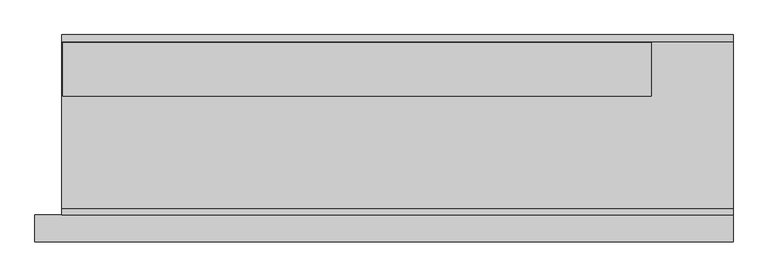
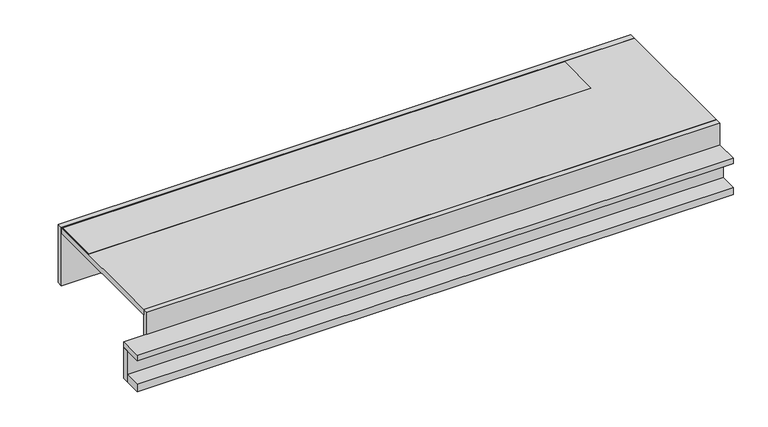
"""IFC4 building model written with IfcOpenShell, lengths in millimetres: proxy geometry, ELEVATE^ADMIN_74.38x23x8 FRONT WIRE WALL-BASE TAIL LEFT."""

from ifc_helpers import new_model, si_unit, frame, origin, place, context, project, spatial, polyline, outline, extrude, source, transform, mapped, element, save


def generic_models_a926e686(model_context):
    return source(origin(), model_context, "Body", "SweptSolid", [
        extrude(outline(polyline([(0.0, 76.2), (1965.325, 76.2), (1965.325, 57.15), (0.0, 57.15), (0.0, 76.2)])), frame((0.0, 0.0, -127.0), z_axis=(0.0, 0.0, 1.0), x_axis=(1.0, 0.0, 0.0)), (0.0, 0.0, 1.0), 107.95),
        extrude(outline(polyline([(1965.325, 565.15), (76.2, 565.15), (76.2, 584.2), (1965.325, 584.2), (1965.325, 565.15)])), frame((0.0, 0.0, -127.0), z_axis=(0.0, 0.0, 1.0), x_axis=(1.0, 0.0, 0.0)), (0.0, 0.0, 1.0), 203.2),
        extrude(outline(polyline([(1734.34375, 561.975), (1734.34375, 411.95625), (78.58125, 411.95625), (78.58125, 561.975), (1734.34375, 561.975)])), frame((0.0, 0.0, 57.15), z_axis=(0.0, 0.0, 1.0), x_axis=(1.0, 0.0, 0.0)), (0.0, 0.0, 1.0), 19.05),
        extrude(outline(polyline([(1965.325, 565.15), (1965.325, 95.25), (76.2, 95.25), (76.2, 565.15), (1965.325, 565.15)])), frame((0.0, 0.0, 57.15), z_axis=(0.0, 0.0, 1.0), x_axis=(1.0, 0.0, 0.0)), (0.0, 0.0, 1.0), 19.05),
        extrude(outline(polyline([(1965.325, 0.0), (0.0, 0.0), (0.0, 76.2), (1965.325, 76.2), (1965.325, 0.0)])), frame((0.0, 0.0, -19.05), z_axis=(0.0, 0.0, 1.0), x_axis=(1.0, 0.0, 0.0)), (0.0, 0.0, 1.0), 19.05),
        extrude(outline(polyline([(1965.325, 76.2), (76.2, 76.2), (76.2, 95.25), (1965.325, 95.25), (1965.325, 76.2)])), frame((0.0, 0.0, -127.0), z_axis=(0.0, 0.0, 1.0), x_axis=(1.0, 0.0, 0.0)), (0.0, 0.0, 1.0), 203.2),
        extrude(outline(polyline([(1965.325, 57.15), (1965.325, 0.0), (0.0, 0.0), (0.0, 57.15), (1965.325, 57.15)])), frame((0.0, 0.0, -127.0), z_axis=(0.0, 0.0, 1.0), x_axis=(1.0, 0.0, 0.0)), (0.0, 0.0, 1.0), 25.4),
    ])


if __name__ == "__main__":
    model = new_model("IFC4")
    model_context = context("Model", 3, world=origin())
    ifc_project = project(units=[si_unit("LENGTHUNIT", "METRE", prefix="MILLI")], contexts=[model_context])
    site = spatial("IfcSite", under=ifc_project)
    building = spatial("IfcBuilding", under=site)
    placement = place(None, origin())
    generic_models_shape = generic_models_a926e686(model_context)
    element("IfcBuildingElementProxy", 1, Name="ELEVATE^ADMIN_74.38x23x8 FRONT WIRE WALL-BASE TAIL LEFT", ObjectType="ELEVATE^ADMIN_74.38x23x8 FRONT WIRE WALL-BASE TAIL LEFT", at=placement, inside=building, context=model_context, shape_type="MappedRepresentation", body=[
        mapped(generic_models_shape, transform((0.0, 0.0, 0.0), x_axis=(1.0, 0.0, 0.0), y_axis=(0.0, 1.0, 0.0), z_axis=(0.0, 0.0, 1.0))),
    ])
    save(model, "model.ifc")
